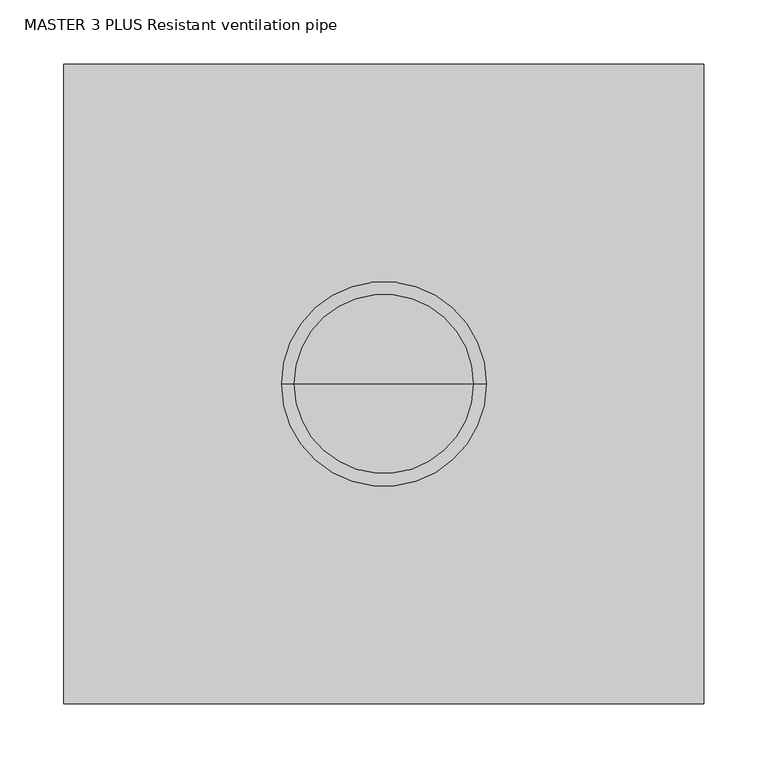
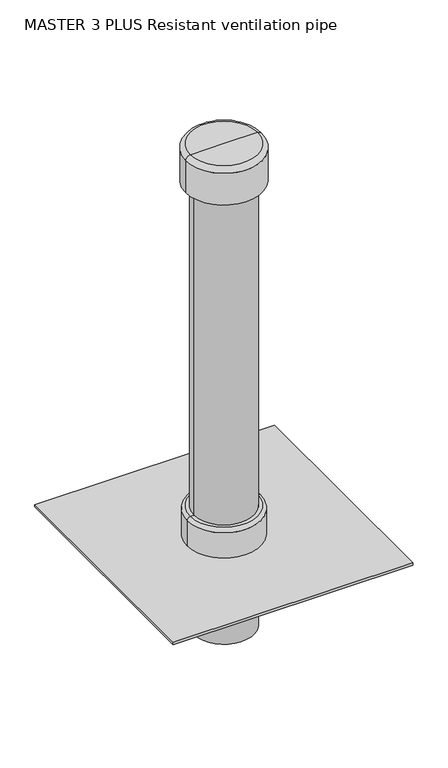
"""IFC4 building model written with IfcOpenShell, lengths in millimetres: valve geometry, MASTER 3 PLUS Resistant ventilation pipe : DN125, Lesp = 200, L3 = 860 mm."""

from ifc_helpers import new_model, si_unit, point, frame, origin, origin_with_axes, origin_2d, place, context, project, spatial, polyline, circle_curve, ellipse_curve, trimmed, segment, composite_curve, outline, extrude, source, transform, mapped, element, save
from ifc_brep_helpers import plane_surface, cylinder_surface, revolved_surface, advanced_brep


def master_3_plus_resistant_ventilation_pipe_054bd956(model_context):
    return source(origin(), model_context, "Body", "SolidModel", [
        advanced_brep(
        [(70.0, 0.0, 1060.0), (-70.0, 0.0, 1060.0), (0.0, 0.0, 1060.0), (80.0, 0.0, 980.0), (-80.0, 0.0, 980.0), (-80.0, 0.0, 1050.0), (80.0, 0.0, 1050.0), (0.0, 0.0, 980.0)],
        [
            (0, 1, circle_curve(frame((0.0, 0.0, 1060.0), z_axis=(0.0, 0.0, 1.0), x_axis=(-1.0, 0.0, 0.0)), 70.0)),
            (1, 2),
            (2, 0),
            (1, 0, circle_curve(frame((0.0, 0.0, 1060.0), z_axis=(0.0, 0.0, 1.0), x_axis=(-1.0, 0.0, 0.0)), 70.0)),
            (3, 4, circle_curve(frame((0.0, 0.0, 980.0), z_axis=(0.0, 0.0, 1.0), x_axis=(-1.0, 0.0, 0.0)), 80.0)),
            (4, 5),
            (5, 6, circle_curve(frame((0.0, 0.0, 1050.0), z_axis=(0.0, 0.0, -1.0), x_axis=(-1.0, 0.0, 0.0)), 80.0)),
            (6, 3),
            (4, 3, circle_curve(frame((0.0, 0.0, 980.0), z_axis=(0.0, 0.0, 1.0), x_axis=(-1.0, 0.0, 0.0)), 80.0)),
            (6, 5, circle_curve(frame((0.0, 0.0, 1050.0), z_axis=(0.0, 0.0, -1.0), x_axis=(-1.0, 0.0, 0.0)), 80.0)),
            (7, 4),
            (3, 7),
            (5, 1, circle_curve(frame((-70.0, 0.0, 1050.0), z_axis=(0.0, 1.0, 0.0), x_axis=(1.0, 0.0, 0.0)), 10.0)),
            (0, 6, circle_curve(frame((70.0, 0.0, 1050.0), z_axis=(0.0, 1.0, 0.0), x_axis=(-1.0, 0.0, 0.0)), 10.0)),
        ],
        [
            plane_surface(frame((0.0, 0.0, 1060.0), z_axis=(0.0, 0.0, 1.0), x_axis=(-1.0, 0.0, 0.0))),
            cylinder_surface(frame((0.0, 0.0, 1060.0), z_axis=(0.0, 0.0, -1.0), x_axis=(-1.0, 0.0, 0.0)), 80.0),
            plane_surface(frame((0.0, 0.0, 980.0), z_axis=(0.0, 0.0, -1.0), x_axis=(-1.0, 0.0, 0.0))),
            revolved_surface(trimmed(ellipse_curve(frame((-70.0, 0.0, 1050.0), z_axis=(0.0, -1.0, 0.0), x_axis=(1.0, 0.0, 0.0)), 10.0, 10.0), [point((-70.0, 0.0, 1060.0))], [point((-80.0, 0.0, 1050.0))], True, "CARTESIAN"), (0.0, 0.0, 1060.0), (0.0, 0.0, -1.0)),
        ],
        [
            (0, [[1, 2, 3]]),
            (0, [[4, -3, -2]]),
            (1, [[5, 6, 7, 8]]),
            (1, [[9, -8, 10, -6]]),
            (2, [[11, -5, 12]]),
            (2, [[-12, -9, -11]]),
            (3, [[-7, 13, -1, 14]]),
            (3, [[-10, -14, -4, -13]]),
        ],
    ),
        extrude(outline(polyline([(250.0, 250.0), (250.0, -250.0), (-250.0, -250.0), (-250.0, 250.0), (250.0, 250.0)]), holes=[composite_curve([segment(trimmed(circle_curve(origin_2d(), 62.5), [point((-62.5, 0.0))], [point((62.5, 0.0))], True, "CARTESIAN"), True, "CONTINUOUS"), segment(trimmed(circle_curve(origin_2d(), 62.5), [point((62.5, 0.0))], [point((-62.5, 0.0))], True, "CARTESIAN"), True, "CONTINUOUS")], self_intersect=False)]), frame((0.0, 0.0, 194.9838403), z_axis=(0.0, 0.0, 1.0), x_axis=(1.0, 0.0, 0.0)), (0.0, 0.0, 1.0), 5.0161597),
        advanced_brep(
        [(77.0, 0.0, 200.0), (-77.0, 0.0, 200.0), (-77.0, 0.0, 255.75), (77.0, 0.0, 255.75), (62.5, 0.0, 200.0), (-62.5, 0.0, 200.0), (62.5, 0.0, 263.0), (-62.5, 0.0, 263.0), (69.75, 0.0, 263.0), (-69.75, 0.0, 263.0)],
        [
            (0, 1, circle_curve(frame((0.0, 0.0, 200.0), z_axis=(0.0, 0.0, 1.0), x_axis=(-1.0, 0.0, 0.0)), 77.0)),
            (1, 2),
            (2, 3, circle_curve(frame((0.0, 0.0, 255.75), z_axis=(0.0, 0.0, -1.0), x_axis=(-1.0, 0.0, 0.0)), 77.0)),
            (3, 0),
            (1, 0, circle_curve(frame((0.0, 0.0, 200.0), z_axis=(0.0, 0.0, 1.0), x_axis=(-1.0, 0.0, 0.0)), 77.0)),
            (3, 2, circle_curve(frame((0.0, 0.0, 255.75), z_axis=(0.0, 0.0, -1.0), x_axis=(-1.0, 0.0, 0.0)), 77.0)),
            (4, 5, circle_curve(frame((0.0, 0.0, 200.0), z_axis=(0.0, 0.0, 1.0), x_axis=(-1.0, 0.0, 0.0)), 62.5)),
            (5, 1),
            (0, 4),
            (5, 4, circle_curve(frame((0.0, 0.0, 200.0), z_axis=(0.0, 0.0, 1.0), x_axis=(-1.0, 0.0, 0.0)), 62.5)),
            (6, 7, circle_curve(frame((0.0, 0.0, 263.0), z_axis=(0.0, 0.0, 1.0), x_axis=(-1.0, 0.0, 0.0)), 62.5)),
            (7, 5),
            (4, 6),
            (7, 6, circle_curve(frame((0.0, 0.0, 263.0), z_axis=(0.0, 0.0, 1.0), x_axis=(-1.0, 0.0, 0.0)), 62.5)),
            (8, 9, circle_curve(frame((0.0, 0.0, 263.0), z_axis=(0.0, 0.0, 1.0), x_axis=(-1.0, 0.0, 0.0)), 69.75)),
            (9, 7),
            (6, 8),
            (9, 8, circle_curve(frame((0.0, 0.0, 263.0), z_axis=(0.0, 0.0, 1.0), x_axis=(-1.0, 0.0, 0.0)), 69.75)),
            (2, 9, circle_curve(frame((-69.75, 0.0, 255.75), z_axis=(0.0, 1.0, 0.0), x_axis=(1.0, 0.0, 0.0)), 7.25)),
            (8, 3, circle_curve(frame((69.75, 0.0, 255.75), z_axis=(0.0, 1.0, 0.0), x_axis=(-1.0, 0.0, 0.0)), 7.25)),
        ],
        [
            cylinder_surface(frame((0.0, 0.0, 263.0), z_axis=(0.0, 0.0, -1.0), x_axis=(-1.0, 0.0, 0.0)), 77.0),
            plane_surface(frame((0.0, 0.0, 200.0), z_axis=(0.0, 0.0, -1.0), x_axis=(-1.0, 0.0, 0.0))),
            revolved_surface(polyline([(-62.5, 0.0, 200.0), (-62.5, 0.0, 263.0)]), (0.0, 0.0, 263.0), (0.0, 0.0, -1.0)),
            plane_surface(frame((0.0, 0.0, 263.0), z_axis=(0.0, 0.0, 1.0), x_axis=(-1.0, 0.0, 0.0))),
            revolved_surface(trimmed(ellipse_curve(frame((-69.75, 0.0, 255.75), z_axis=(0.0, -1.0, 0.0), x_axis=(1.0, 0.0, 0.0)), 7.25, 7.25), [point((-69.75, 0.0, 263.0))], [point((-77.0, 0.0, 255.75))], True, "CARTESIAN"), (0.0, 0.0, 263.0), (0.0, 0.0, -1.0)),
        ],
        [
            (0, [[1, 2, 3, 4]]),
            (0, [[5, -4, 6, -2]]),
            (1, [[7, 8, -1, 9]]),
            (1, [[10, -9, -5, -8]]),
            (2, [[11, 12, -7, 13]]),
            (2, [[14, -13, -10, -12]]),
            (3, [[15, 16, -11, 17]]),
            (3, [[18, -17, -14, -16]]),
            (4, [[-3, 19, -15, 20]]),
            (4, [[-6, -20, -18, -19]]),
        ],
    ),
        extrude(outline(composite_curve([segment(trimmed(circle_curve(origin_2d(), 62.5), [point((62.5, 0.0))], [point((-62.5, 0.0))], False, "CARTESIAN"), True, "CONTINUOUS"), segment(trimmed(circle_curve(origin_2d(), 62.5), [point((-62.5, 0.0))], [point((62.5, 0.0))], False, "CARTESIAN"), True, "CONTINUOUS")], self_intersect=False)), frame((0.0, 0.0, 200.0), z_axis=(0.0, 0.0, 1.0), x_axis=(1.0, 0.0, 0.0)), (0.0, 0.0, 1.0), 832.0),
        extrude(outline(composite_curve([segment(trimmed(circle_curve(origin_2d(), 62.5), [point((-62.5, 0.0))], [point((62.5, 0.0))], False, "CARTESIAN"), True, "CONTINUOUS"), segment(trimmed(circle_curve(origin_2d(), 62.5), [point((62.5, 0.0))], [point((-62.5, 0.0))], False, "CARTESIAN"), True, "CONTINUOUS")], self_intersect=False)), origin_with_axes(), (0.0, 0.0, 1.0), 194.9838403),
    ])


if __name__ == "__main__":
    model = new_model("IFC4")
    model_context = context("Model", 3, world=origin())
    ifc_project = project(units=[si_unit("LENGTHUNIT", "METRE", prefix="MILLI")], contexts=[model_context])
    site = spatial("IfcSite", under=ifc_project)
    building = spatial("IfcBuilding", under=site)
    placement = place(None, origin())
    master_3_plus_resistant_ventilation_pipe_shape = master_3_plus_resistant_ventilation_pipe_054bd956(model_context)
    element("IfcValve", 1, ObjectType="MASTER 3 PLUS Resistant ventilation pipe : DN125, Lesp = 200, L3 = 860 mm", at=placement, inside=building, context=model_context, shape_type="MappedRepresentation", body=[
        mapped(master_3_plus_resistant_ventilation_pipe_shape, transform((0.0, 0.0, 0.0), x_axis=(1.0, 0.0, 0.0), y_axis=(0.0, 1.0, 0.0), z_axis=(0.0, 0.0, 1.0))),
    ])
    save(model, "model.ifc")
